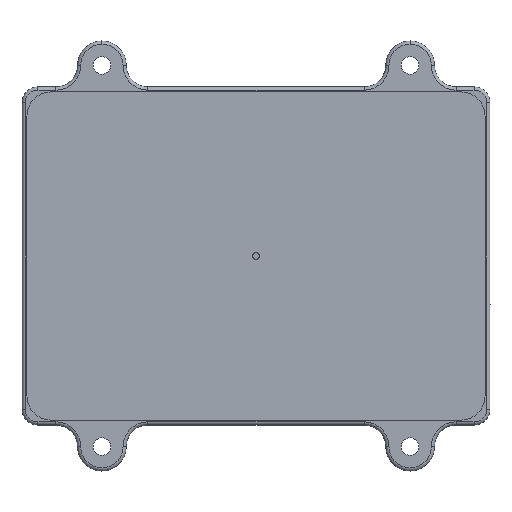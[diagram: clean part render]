
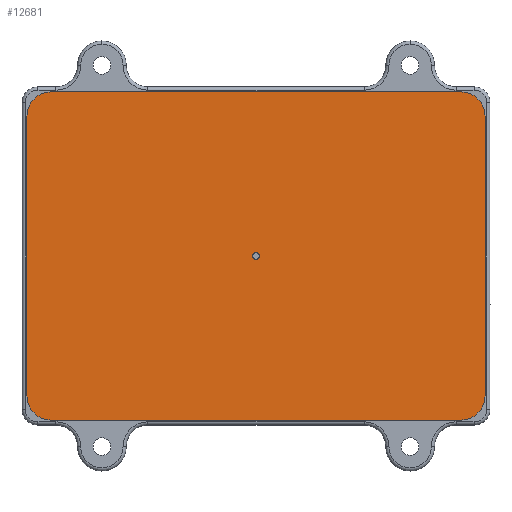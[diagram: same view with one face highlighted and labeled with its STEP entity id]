
A CAD part, front view. The second image highlights one B-rep face of the part: STEP entity #12681.
In plain terms, the highlighted planar face has unit normal (0, -1, 0).
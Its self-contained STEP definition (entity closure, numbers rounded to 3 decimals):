
#209 = EDGE_CURVE ( 'NONE', #24618, #20720, #19142, .T. ) ;
#892 = EDGE_CURVE ( 'NONE', #20720, #12429, #21452, .T. ) ;
#1518 = EDGE_CURVE ( 'NONE', #13597, #24618, #7179, .T. ) ;
#1757 = FACE_OUTER_BOUND ( 'NONE', #18897, .T. ) ;
#2065 = CARTESIAN_POINT ( 'NONE',  ( 64.135, -9.605, 43.815 ) ) ;
#2301 = EDGE_CURVE ( 'NONE', #12429, #16645, #18943, .T. ) ;
#2816 = CARTESIAN_POINT ( 'NONE',  ( 64.135, -9.605, 51.375 ) ) ;
#3804 = CARTESIAN_POINT ( 'NONE',  ( 64.135, -9.605, -43.815 ) ) ;
#4903 = EDGE_CURVE ( 'NONE', #8761, #13597, #13688, .T. ) ;
#5237 = DIRECTION ( 'NONE',  ( 0., -1., 0. ) ) ;
#5609 = DIRECTION ( 'NONE',  ( 1., 0., 0. ) ) ;
#5674 = DIRECTION ( 'NONE',  ( 0., 0., 1. ) ) ;
#6638 = CARTESIAN_POINT ( 'NONE',  ( 64.135, -9.605, -43.815 ) ) ;
#7161 = CARTESIAN_POINT ( 'NONE',  ( -71.695, -9.605, 43.815 ) ) ;
#7179 = LINE ( 'NONE', #25717, #23079 ) ;
#7691 = EDGE_CURVE ( 'NONE', #21498, #13303, #26561, .T. ) ;
#7942 = CARTESIAN_POINT ( 'NONE',  ( -64.135, -9.605, -51.375 ) ) ;
#8054 = CARTESIAN_POINT ( 'NONE',  ( -64.135, -9.605, -43.815 ) ) ;
#8514 = LINE ( 'NONE', #18378, #15657 ) ;
#8704 = EDGE_CURVE ( 'NONE', #16645, #21498, #19383, .T. ) ;
#8761 = VERTEX_POINT ( 'NONE', #21366 ) ;
#8974 = VERTEX_POINT ( 'NONE', #15790 ) ;
#9125 = FACE_BOUND ( 'NONE', #17803, .T. ) ;
#9136 = EDGE_CURVE ( 'NONE', #13303, #8761, #8514, .T. ) ;
#9317 = DIRECTION ( 'NONE',  ( 1., 0., 0. ) ) ;
#10610 = AXIS2_PLACEMENT_3D ( 'NONE', #11554, #26598, #9317 ) ;
#10793 = CARTESIAN_POINT ( 'NONE',  ( 64.135, -9.605, 51.375 ) ) ;
#11064 = AXIS2_PLACEMENT_3D ( 'NONE', #22739, #24935, #14132 ) ;
#11233 = CARTESIAN_POINT ( 'NONE',  ( -64.135, -9.605, 51.375 ) ) ;
#11554 = CARTESIAN_POINT ( 'NONE',  ( -64.135, -9.605, 43.815 ) ) ;
#11966 = DIRECTION ( 'NONE',  ( 0., 0., -1. ) ) ;
#12353 = DIRECTION ( 'NONE',  ( 1., 0., 0. ) ) ;
#12402 = EDGE_CURVE ( 'NONE', #15984, #8974, #24030, .T. ) ;
#12429 = VERTEX_POINT ( 'NONE', #22453 ) ;
#12615 = ORIENTED_EDGE ( 'NONE', *, *, #209, .T. ) ;
#12662 = DIRECTION ( 'NONE',  ( 1., 0., 0. ) ) ;
#12681 = ADVANCED_FACE ( 'NONE', ( #9125, #1757 ), #23741, .T. ) ;
#12880 = ORIENTED_EDGE ( 'NONE', *, *, #4903, .T. ) ;
#12991 = CARTESIAN_POINT ( 'NONE',  ( 1., -9.605, 0. ) ) ;
#13303 = VERTEX_POINT ( 'NONE', #7161 ) ;
#13561 = ORIENTED_EDGE ( 'NONE', *, *, #8704, .T. ) ;
#13597 = VERTEX_POINT ( 'NONE', #7942 ) ;
#13688 = CIRCLE ( 'NONE', #19406, 7.56 ) ;
#14132 = DIRECTION ( 'NONE',  ( 1., 0., 0. ) ) ;
#14901 = AXIS2_PLACEMENT_3D ( 'NONE', #6638, #23831, #21684 ) ;
#15657 = VECTOR ( 'NONE', #11966, 1000. ) ;
#15790 = CARTESIAN_POINT ( 'NONE',  ( -1., -9.605, 0. ) ) ;
#15984 = VERTEX_POINT ( 'NONE', #12991 ) ;
#16428 = ORIENTED_EDGE ( 'NONE', *, *, #2301, .T. ) ;
#16645 = VERTEX_POINT ( 'NONE', #2816 ) ;
#17155 = DIRECTION ( 'NONE',  ( 1., 0., 0. ) ) ;
#17803 = EDGE_LOOP ( 'NONE', ( #24259, #25466 ) ) ;
#18378 = CARTESIAN_POINT ( 'NONE',  ( -71.695, -9.605, -43.815 ) ) ;
#18673 = CARTESIAN_POINT ( 'NONE',  ( 71.695, -9.605, -43.815 ) ) ;
#18897 = EDGE_LOOP ( 'NONE', ( #25093, #12615, #19085, #16428, #13561, #24010, #19595, #12880 ) ) ;
#18914 = AXIS2_PLACEMENT_3D ( 'NONE', #3804, #21166, #12353 ) ;
#18943 = CIRCLE ( 'NONE', #19689, 7.56 ) ;
#19083 = DIRECTION ( 'NONE',  ( 0., -1., 0. ) ) ;
#19085 = ORIENTED_EDGE ( 'NONE', *, *, #892, .T. ) ;
#19142 = CIRCLE ( 'NONE', #18914, 7.56 ) ;
#19233 = CARTESIAN_POINT ( 'NONE',  ( 64.135, -9.605, -51.375 ) ) ;
#19259 = DIRECTION ( 'NONE',  ( -1., 0., 0. ) ) ;
#19383 = LINE ( 'NONE', #10793, #27125 ) ;
#19406 = AXIS2_PLACEMENT_3D ( 'NONE', #8054, #23196, #12662 ) ;
#19595 = ORIENTED_EDGE ( 'NONE', *, *, #9136, .T. ) ;
#19689 = AXIS2_PLACEMENT_3D ( 'NONE', #2065, #19083, #27818 ) ;
#20720 = VERTEX_POINT ( 'NONE', #23140 ) ;
#20810 = VECTOR ( 'NONE', #5674, 1000. ) ;
#21166 = DIRECTION ( 'NONE',  ( 0., -1., 0. ) ) ;
#21366 = CARTESIAN_POINT ( 'NONE',  ( -71.695, -9.605, -43.815 ) ) ;
#21452 = LINE ( 'NONE', #18673, #20810 ) ;
#21498 = VERTEX_POINT ( 'NONE', #11233 ) ;
#21684 = DIRECTION ( 'NONE',  ( 1., 0., 0. ) ) ;
#22453 = CARTESIAN_POINT ( 'NONE',  ( 71.695, -9.605, 43.815 ) ) ;
#22739 = CARTESIAN_POINT ( 'NONE',  ( 0., -9.605, 0. ) ) ;
#22772 = CIRCLE ( 'NONE', #24199, 1. ) ;
#23079 = VECTOR ( 'NONE', #17155, 1000. ) ;
#23140 = CARTESIAN_POINT ( 'NONE',  ( 71.695, -9.605, -43.815 ) ) ;
#23196 = DIRECTION ( 'NONE',  ( 0., -1., 0. ) ) ;
#23741 = PLANE ( 'NONE',  #14901 ) ;
#23831 = DIRECTION ( 'NONE',  ( 0., -1., 0. ) ) ;
#24010 = ORIENTED_EDGE ( 'NONE', *, *, #7691, .T. ) ;
#24030 = CIRCLE ( 'NONE', #11064, 1. ) ;
#24199 = AXIS2_PLACEMENT_3D ( 'NONE', #26770, #5237, #5609 ) ;
#24259 = ORIENTED_EDGE ( 'NONE', *, *, #12402, .F. ) ;
#24618 = VERTEX_POINT ( 'NONE', #19233 ) ;
#24935 = DIRECTION ( 'NONE',  ( 0., -1., 0. ) ) ;
#25093 = ORIENTED_EDGE ( 'NONE', *, *, #1518, .T. ) ;
#25466 = ORIENTED_EDGE ( 'NONE', *, *, #25906, .F. ) ;
#25717 = CARTESIAN_POINT ( 'NONE',  ( 64.135, -9.605, -51.375 ) ) ;
#25906 = EDGE_CURVE ( 'NONE', #8974, #15984, #22772, .T. ) ;
#26561 = CIRCLE ( 'NONE', #10610, 7.56 ) ;
#26598 = DIRECTION ( 'NONE',  ( 0., -1., 0. ) ) ;
#26770 = CARTESIAN_POINT ( 'NONE',  ( 0., -9.605, 0. ) ) ;
#27125 = VECTOR ( 'NONE', #19259, 1000. ) ;
#27818 = DIRECTION ( 'NONE',  ( 1., 0., 0. ) ) ;
